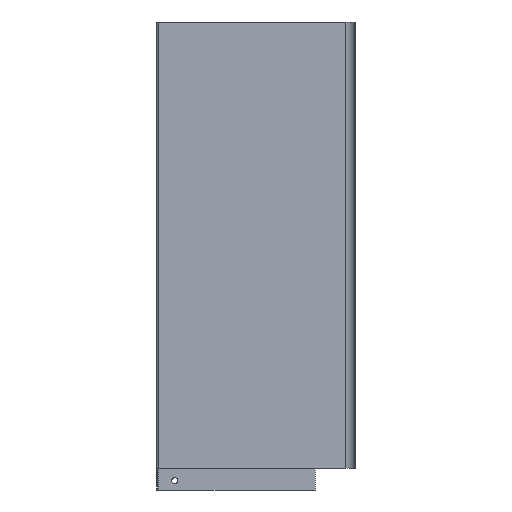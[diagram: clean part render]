
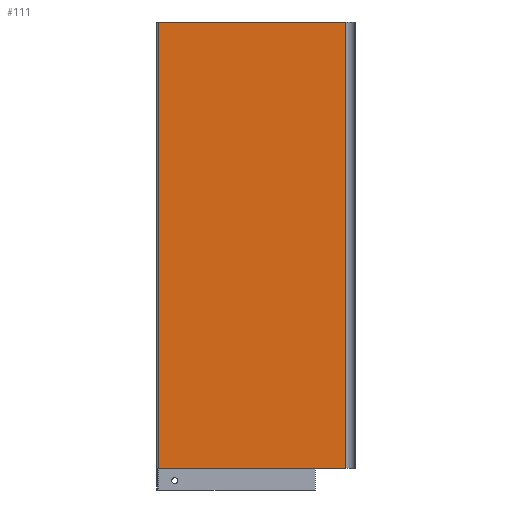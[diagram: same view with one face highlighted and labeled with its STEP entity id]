
A CAD part, left-side view. The second image highlights one B-rep face of the part: STEP entity #111.
In plain terms, the highlighted planar face has unit normal (-1, 0, 0).
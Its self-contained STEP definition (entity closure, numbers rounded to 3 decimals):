
#2 = EDGE_CURVE ( 'NONE', #513, #468, #167, .T. ) ;
#18 = FACE_OUTER_BOUND ( 'NONE', #60, .T. ) ;
#60 = EDGE_LOOP ( 'NONE', ( #670, #726, #65, #626 ) ) ;
#65 = ORIENTED_EDGE ( 'NONE', *, *, #2, .T. ) ;
#86 = CARTESIAN_POINT ( 'NONE',  ( -8., -144.438, 0. ) ) ;
#111 = ADVANCED_FACE ( 'NONE', ( #18 ), #623, .F. ) ;
#136 = VERTEX_POINT ( 'NONE', #531 ) ;
#144 = CARTESIAN_POINT ( 'NONE',  ( -8., 14.6, -379. ) ) ;
#155 = DIRECTION ( 'NONE',  ( 0., -1., 0. ) ) ;
#167 = LINE ( 'NONE', #394, #810 ) ;
#221 = LINE ( 'NONE', #762, #850 ) ;
#252 = DIRECTION ( 'NONE',  ( 0., 1., 0. ) ) ;
#280 = CARTESIAN_POINT ( 'NONE',  ( -8., 14.6, 0. ) ) ;
#317 = LINE ( 'NONE', #387, #372 ) ;
#324 = DIRECTION ( 'NONE',  ( 0., 0., 1. ) ) ;
#347 = AXIS2_PLACEMENT_3D ( 'NONE', #868, #456, #252 ) ;
#372 = VECTOR ( 'NONE', #453, 1000. ) ;
#380 = VERTEX_POINT ( 'NONE', #144 ) ;
#387 = CARTESIAN_POINT ( 'NONE',  ( -8., 14.6, -549.266 ) ) ;
#394 = CARTESIAN_POINT ( 'NONE',  ( -8., -144.438, 0. ) ) ;
#453 = DIRECTION ( 'NONE',  ( 0., 0., 1. ) ) ;
#456 = DIRECTION ( 'NONE',  ( 1., 0., 0. ) ) ;
#468 = VERTEX_POINT ( 'NONE', #280 ) ;
#478 = EDGE_CURVE ( 'NONE', #380, #136, #221, .T. ) ;
#513 = VERTEX_POINT ( 'NONE', #86 ) ;
#531 = CARTESIAN_POINT ( 'NONE',  ( -8., -144.438, -379. ) ) ;
#543 = EDGE_CURVE ( 'NONE', #380, #468, #317, .T. ) ;
#623 = PLANE ( 'NONE',  #347 ) ;
#626 = ORIENTED_EDGE ( 'NONE', *, *, #543, .F. ) ;
#664 = CARTESIAN_POINT ( 'NONE',  ( -8., -144.438, -549.266 ) ) ;
#670 = ORIENTED_EDGE ( 'NONE', *, *, #478, .T. ) ;
#709 = VECTOR ( 'NONE', #324, 1000. ) ;
#726 = ORIENTED_EDGE ( 'NONE', *, *, #871, .T. ) ;
#762 = CARTESIAN_POINT ( 'NONE',  ( -8., -144.438, -379. ) ) ;
#810 = VECTOR ( 'NONE', #878, 1000. ) ;
#836 = LINE ( 'NONE', #664, #709 ) ;
#850 = VECTOR ( 'NONE', #155, 1000. ) ;
#868 = CARTESIAN_POINT ( 'NONE',  ( -8., -144.438, -549.266 ) ) ;
#871 = EDGE_CURVE ( 'NONE', #136, #513, #836, .T. ) ;
#878 = DIRECTION ( 'NONE',  ( 0., 1., 0. ) ) ;
